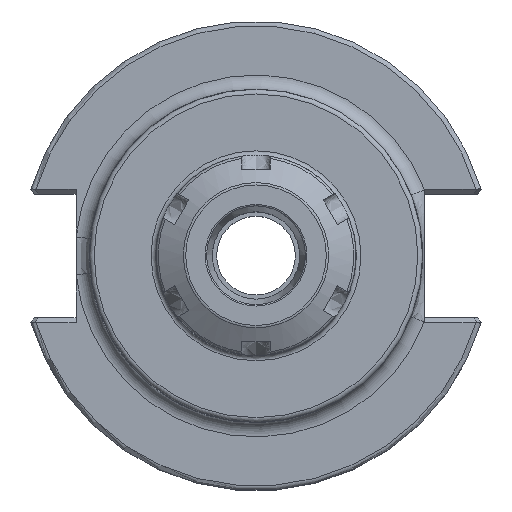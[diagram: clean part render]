
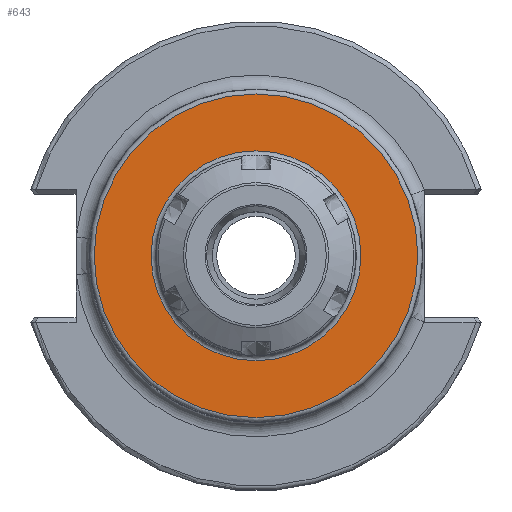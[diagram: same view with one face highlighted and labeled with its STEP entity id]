
A CAD part, top view. The second image highlights one B-rep face of the part: STEP entity #643.
In plain terms, the highlighted planar face has unit normal (0, 0, 1).
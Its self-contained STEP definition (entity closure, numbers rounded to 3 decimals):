
#333=FACE_BOUND('',#918,.T.);
#334=FACE_BOUND('',#919,.T.);
#503=PLANE('',#3037);
#643=ADVANCED_FACE('',(#333,#334),#503,.T.);
#918=EDGE_LOOP('',(#1890));
#919=EDGE_LOOP('',(#1891));
#1111=CIRCLE('',#3035,22.);
#1112=CIRCLE('',#3036,33.925);
#1890=ORIENTED_EDGE('',*,*,#2696,.T.);
#1891=ORIENTED_EDGE('',*,*,#2697,.T.);
#2364=VERTEX_POINT('',#5104);
#2365=VERTEX_POINT('',#5106);
#2696=EDGE_CURVE('',#2364,#2364,#1111,.T.);
#2697=EDGE_CURVE('',#2365,#2365,#1112,.T.);
#3035=AXIS2_PLACEMENT_3D('',#5103,#3568,#3569);
#3036=AXIS2_PLACEMENT_3D('',#5105,#3570,#3571);
#3037=AXIS2_PLACEMENT_3D('',#5107,#3572,#3573);
#3568=DIRECTION('',(0.,0.,-1.));
#3569=DIRECTION('',(1.,0.,0.));
#3570=DIRECTION('',(0.,0.,1.));
#3571=DIRECTION('',(1.,0.,0.));
#3572=DIRECTION('',(0.,0.,1.));
#3573=DIRECTION('',(-1.,0.,0.));
#5103=CARTESIAN_POINT('',(0.,0.,136.65));
#5104=CARTESIAN_POINT('',(22.,0.,136.65));
#5105=CARTESIAN_POINT('',(0.,0.,136.65));
#5106=CARTESIAN_POINT('',(33.925,0.,136.65));
#5107=CARTESIAN_POINT('',(0.,-34.925,136.65));
